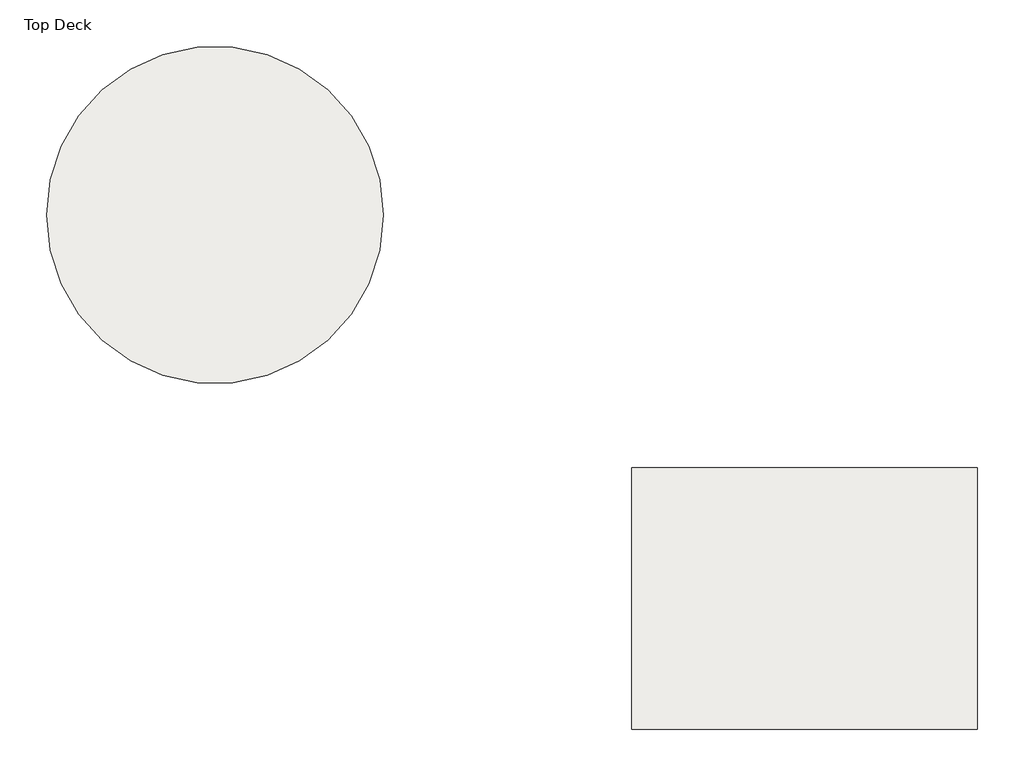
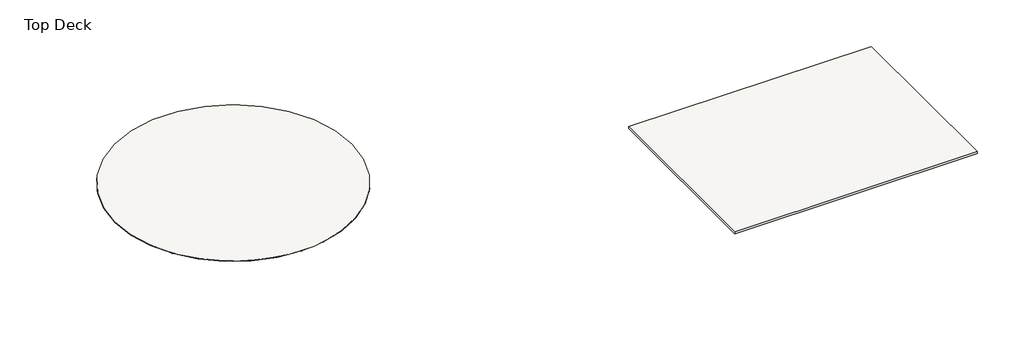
# One storey: 2 slabs.
"""IFC4 building model written with IfcOpenShell, lengths in millimetres."""

from ifc_helpers import new_model, si_unit, point, frame, frame_2d, origin, place, context, project, spatial, polyline, circle_curve, trimmed, segment, composite_curve, outline, extrude, element, save

model = new_model("IFC4")

# Units and contexts
model_context = context("Model", 3, world=origin())
ifc_project = project(units=[si_unit("LENGTHUNIT", "METRE", prefix="MILLI")], contexts=[model_context])

# Site, building, storey
site = spatial("IfcSite", under=ifc_project)
building = spatial("IfcBuilding", under=site)
storey = spatial("IfcBuildingStorey", under=building, Name="Top Deck", Elevation=304.8)

# Slabs
placement = place(None, origin())
element("IfcSlab", 1, ObjectType="Excavate", at=placement, inside=storey, context=model_context, shape_type="SweptSolid", body=[
    extrude(outline(composite_curve([segment(trimmed(circle_curve(frame_2d((291.4788706, -1163.8939898)), 1219.2), [point((-927.7211294, -1163.8939898))], [point((1510.6788706, -1163.8939898))], False, "CARTESIAN"), True, "CONTINUOUS"), segment(trimmed(circle_curve(frame_2d((291.4788706, -1163.8939898)), 1219.2), [point((1510.6788706, -1163.8939898))], [point((-927.7211294, -1163.8939898))], False, "CARTESIAN"), True, "CONTINUOUS")], self_intersect=False)), frame((0.0, 0.0, -362.4707), z_axis=(0.0, 0.0, 1.0), x_axis=(1.0, 0.0, 0.0)), (0.0, 0.0, 1.0), 1.5875),
])
element("IfcSlab", 2, ObjectType="Deck", at=placement, inside=storey, context=model_context, shape_type="SweptSolid", body=[
    extrude(outline(polyline([(5809.6288706, -4884.9939898), (3307.7288706, -4884.9939898), (3307.7288706, -2992.6939898), (5809.6288706, -2992.6939898), (5809.6288706, -4884.9939898)])), frame((0.0, 0.0, 285.75), z_axis=(0.0, 0.0, 1.0), x_axis=(1.0, 0.0, 0.0)), (0.0, 0.0, 1.0), 19.05),
])

save(model, "model.ifc")
